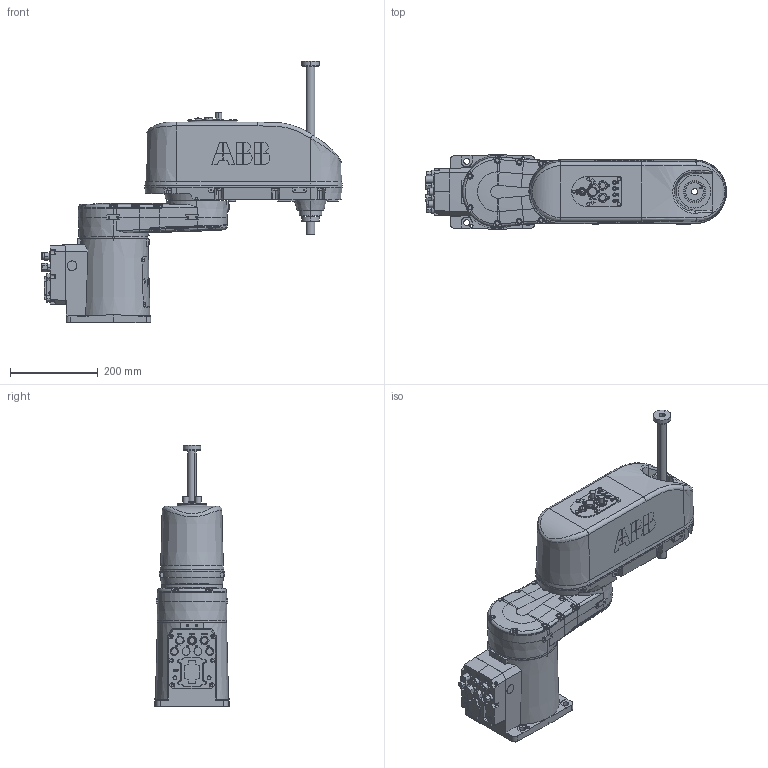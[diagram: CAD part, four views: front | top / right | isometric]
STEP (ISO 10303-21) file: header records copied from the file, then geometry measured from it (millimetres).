
FILE_DESCRIPTION (( 'STEP AP214' ), '1' );
FILE_NAME ('IRB920T_6kg-450-180-STD_OmniCore_rev00_Assembly.step', '2021-08-23T03:24:22', ( '' ), ( '' ), 'SwSTEP 2.0', 'SolidWorks 2018', '' );
FILE_SCHEMA (( 'AUTOMOTIVE_DESIGN' ));
Length unit declared in the file: millimetre
Products named in the file (5): IRB920T_6kg-450-180-STD_OmniCore_rev00_Assembly; IRB920T_6kg-450-180-STD_OmniCore_rev00_LINK3_CAD; IRB920T_6kg-450-180-STD_OmniCore_rev00_LINK2_CAD; IRB920T_6kg-450-180-STD_OmniCore_rev00_LINK0_CAD; IRB920T_6kg-450-180-STD_OmniCore_rev00_LINK1_CAD
Assembly tree (4 placements, depth 2):
  IRB920T_6kg-450-180-STD_OmniCore_rev00_Assembly
    IRB920T_6kg-450-180-STD_OmniCore_rev00_LINK0_CAD
    IRB920T_6kg-450-180-STD_OmniCore_rev00_LINK1_CAD
    IRB920T_6kg-450-180-STD_OmniCore_rev00_LINK2_CAD
    IRB920T_6kg-450-180-STD_OmniCore_rev00_LINK3_CAD
Bounding box: 687 x 170 x 596.5 mm (x, y, z)
Volume: 18228015.9 mm3; surface area: 745787.6 mm2
Topology: 4 solids, 5 shells, 2205 faces, 5671 edges, 3673 vertices
Faces by surface type: plane 1185, bspline 401, cylinder 374, cone 231, torus 12, sphere 2
Entity records: 88864 total; most frequent: CARTESIAN_POINT 36554, ORIENTED_EDGE 11200, DIRECTION 8710, EDGE_CURVE 5600, VERTEX_POINT 3673, LINE 3320, VECTOR 3320, AXIS2_PLACEMENT_3D 2695
